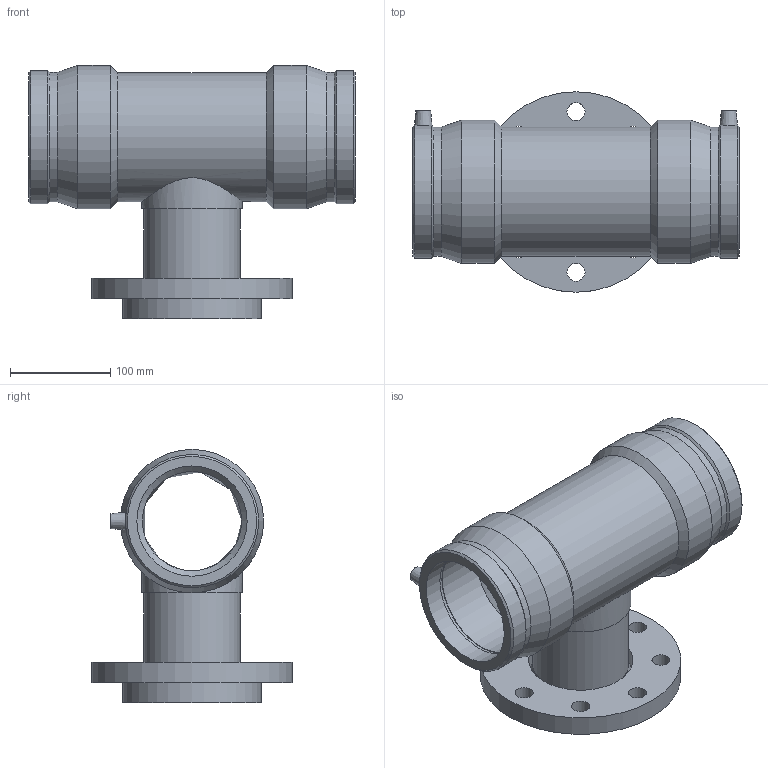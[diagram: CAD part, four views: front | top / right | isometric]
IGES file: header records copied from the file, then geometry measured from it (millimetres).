
Global section: file name: 499404110080.ipt; native system: Autodesk Inventor 2015; preprocessor: unknown; author: KIM; date: 20171106.094448; units: millimetre
Bounding box: 326 x 200 x 252.5 mm (x, y, z)
Volume: 2576491.2 mm3; surface area: 396704.5 mm2
Topology: 1 solids, 1 shells, 64 faces, 148 edges, 96 vertices
Faces by surface type: revolution 25, plane 14, cylinder 13, cone 11, bspline 1
Full cylindrical faces by diameter (mm): 4 x2, 96 x1, 100 x1, 128.7 x1, 129 x2, 138 x1, 143 x2, 200 x1
